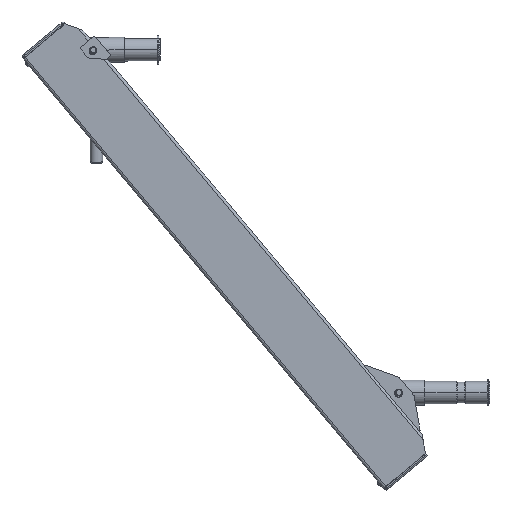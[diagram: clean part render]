
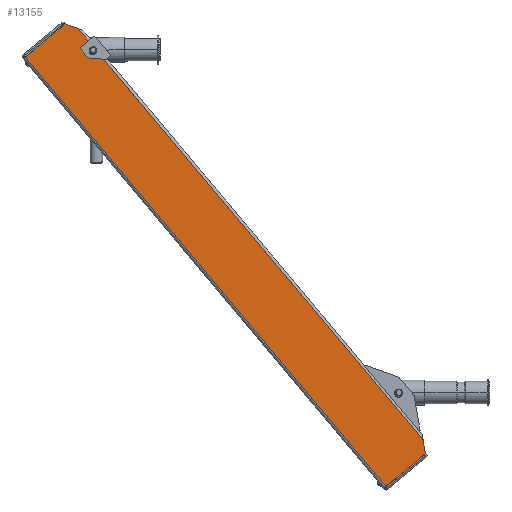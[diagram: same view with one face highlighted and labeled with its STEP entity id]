
A CAD part, left-side view. The second image highlights one B-rep face of the part: STEP entity #13155.
In plain terms, the highlighted planar face has unit normal (-1, 0, 0).
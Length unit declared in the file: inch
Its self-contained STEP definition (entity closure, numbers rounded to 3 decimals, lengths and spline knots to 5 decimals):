
#111 = CIRCLE ( 'NONE', #37386, 0.14063 ) ;
#399 = LINE ( 'NONE', #24057, #34628 ) ;
#415 = EDGE_CURVE ( 'NONE', #27012, #36600, #30924, .T. ) ;
#546 = DIRECTION ( 'NONE',  ( 0., 0., 1. ) ) ;
#809 = LINE ( 'NONE', #41498, #27001 ) ;
#1682 = CARTESIAN_POINT ( 'NONE',  ( 0., 0.185, 9.64062 ) ) ;
#2359 = DIRECTION ( 'NONE',  ( 0., 0., 1. ) ) ;
#3075 = CARTESIAN_POINT ( 'NONE',  ( 0., 0.1, -10.52369 ) ) ;
#3147 = LINE ( 'NONE', #19734, #10473 ) ;
#4107 = ORIENTED_EDGE ( 'NONE', *, *, #33657, .T. ) ;
#4394 = DIRECTION ( 'NONE',  ( 0., 0., -1. ) ) ;
#5242 = ORIENTED_EDGE ( 'NONE', *, *, #53019, .T. ) ;
#5952 = CARTESIAN_POINT ( 'NONE',  ( 0., -0.04803, 9.375 ) ) ;
#6007 = LINE ( 'NONE', #6286, #40725 ) ;
#6085 = ORIENTED_EDGE ( 'NONE', *, *, #33039, .F. ) ;
#6112 = CARTESIAN_POINT ( 'NONE',  ( 0., 0.185, 9.5 ) ) ;
#6232 = VECTOR ( 'NONE', #22784, 39.37008 ) ;
#6286 = CARTESIAN_POINT ( 'NONE',  ( 0., 0.375, 11. ) ) ;
#6518 = CARTESIAN_POINT ( 'NONE',  ( 0., -0.04803, 9.625 ) ) ;
#6832 = DIRECTION ( 'NONE',  ( 0., 0.5, -0.866 ) ) ;
#7044 = VERTEX_POINT ( 'NONE', #23500 ) ;
#7163 = VERTEX_POINT ( 'NONE', #38351 ) ;
#8352 = LINE ( 'NONE', #20865, #49531 ) ;
#9318 = VERTEX_POINT ( 'NONE', #42668 ) ;
#9906 = DIRECTION ( 'NONE',  ( -1., 0., 0. ) ) ;
#10473 = VECTOR ( 'NONE', #2359, 39.37008 ) ;
#10693 = ORIENTED_EDGE ( 'NONE', *, *, #40847, .F. ) ;
#10892 = LINE ( 'NONE', #27460, #34504 ) ;
#11310 = VERTEX_POINT ( 'NONE', #41318 ) ;
#11699 = ORIENTED_EDGE ( 'NONE', *, *, #23959, .F. ) ;
#11955 = VERTEX_POINT ( 'NONE', #37999 ) ;
#12783 = EDGE_CURVE ( 'NONE', #36600, #33723, #3147, .T. ) ;
#13155 = ADVANCED_FACE ( 'NONE', ( #22400 ), #13214, .T. ) ;
#13214 = PLANE ( 'NONE',  #20052 ) ;
#13615 = CARTESIAN_POINT ( 'NONE',  ( 0., 0.185, 9.5 ) ) ;
#14981 = CARTESIAN_POINT ( 'NONE',  ( 0., 0.1, 9.375 ) ) ;
#16290 = VERTEX_POINT ( 'NONE', #1682 ) ;
#16773 = CARTESIAN_POINT ( 'NONE',  ( 0., 0.185, 9.35937 ) ) ;
#19021 = EDGE_CURVE ( 'NONE', #7044, #36402, #47645, .T. ) ;
#19734 = CARTESIAN_POINT ( 'NONE',  ( 0., 0.1, -11. ) ) ;
#20052 = AXIS2_PLACEMENT_3D ( 'NONE', #38130, #9906, #29745 ) ;
#20865 = CARTESIAN_POINT ( 'NONE',  ( 0., 2.4, 11. ) ) ;
#21466 = VERTEX_POINT ( 'NONE', #3075 ) ;
#22016 = DIRECTION ( 'NONE',  ( 0., 0., -1. ) ) ;
#22400 = FACE_OUTER_BOUND ( 'NONE', #42211, .T. ) ;
#22784 = DIRECTION ( 'NONE',  ( 0., 1., 0. ) ) ;
#22804 = DIRECTION ( 'NONE',  ( 0., -1., 0. ) ) ;
#22984 = EDGE_CURVE ( 'NONE', #11310, #7163, #809, .T. ) ;
#23368 = EDGE_CURVE ( 'NONE', #31066, #7044, #47420, .T. ) ;
#23500 = CARTESIAN_POINT ( 'NONE',  ( 0., 0.12058, 9.375 ) ) ;
#23959 = EDGE_CURVE ( 'NONE', #9318, #11955, #8352, .T. ) ;
#24057 = CARTESIAN_POINT ( 'NONE',  ( 0., 2.4, -11. ) ) ;
#24077 = AXIS2_PLACEMENT_3D ( 'NONE', #13615, #46420, #4394 ) ;
#24339 = ORIENTED_EDGE ( 'NONE', *, *, #44586, .T. ) ;
#24844 = EDGE_CURVE ( 'NONE', #11310, #9318, #399, .T. ) ;
#27001 = VECTOR ( 'NONE', #41782, 39.37008 ) ;
#27012 = VERTEX_POINT ( 'NONE', #32574 ) ;
#27460 = CARTESIAN_POINT ( 'NONE',  ( 0., 0.375, -11. ) ) ;
#27606 = ORIENTED_EDGE ( 'NONE', *, *, #12783, .T. ) ;
#29399 = VECTOR ( 'NONE', #546, 39.37008 ) ;
#29745 = DIRECTION ( 'NONE',  ( 0., -1., 0. ) ) ;
#30129 = LINE ( 'NONE', #34441, #29399 ) ;
#30364 = VECTOR ( 'NONE', #22804, 39.37008 ) ;
#30675 = CARTESIAN_POINT ( 'NONE',  ( 0., 0.185, 9.5 ) ) ;
#30924 = LINE ( 'NONE', #6518, #30364 ) ;
#31066 = VERTEX_POINT ( 'NONE', #14981 ) ;
#31832 = ORIENTED_EDGE ( 'NONE', *, *, #23368, .T. ) ;
#32045 = ORIENTED_EDGE ( 'NONE', *, *, #415, .T. ) ;
#32574 = CARTESIAN_POINT ( 'NONE',  ( 0., 0.12058, 9.625 ) ) ;
#33039 = EDGE_CURVE ( 'NONE', #21466, #7163, #10892, .T. ) ;
#33657 = EDGE_CURVE ( 'NONE', #21466, #31066, #30129, .T. ) ;
#33723 = VERTEX_POINT ( 'NONE', #46654 ) ;
#34441 = CARTESIAN_POINT ( 'NONE',  ( 0., 0.1, -11. ) ) ;
#34504 = VECTOR ( 'NONE', #6832, 39.37008 ) ;
#34628 = VECTOR ( 'NONE', #36508, 39.37008 ) ;
#35262 = ORIENTED_EDGE ( 'NONE', *, *, #19021, .T. ) ;
#36402 = VERTEX_POINT ( 'NONE', #16773 ) ;
#36508 = DIRECTION ( 'NONE',  ( 0., 0., 1. ) ) ;
#36600 = VERTEX_POINT ( 'NONE', #41895 ) ;
#37386 = AXIS2_PLACEMENT_3D ( 'NONE', #30675, #39328, #22016 ) ;
#37999 = CARTESIAN_POINT ( 'NONE',  ( 0., 0.375, 11. ) ) ;
#38130 = CARTESIAN_POINT ( 'NONE',  ( 0., 2.4, -11. ) ) ;
#38351 = CARTESIAN_POINT ( 'NONE',  ( 0., 0.375, -11. ) ) ;
#39328 = DIRECTION ( 'NONE',  ( 1., 0., 0. ) ) ;
#40625 = DIRECTION ( 'NONE',  ( 0., -1., 0. ) ) ;
#40723 = AXIS2_PLACEMENT_3D ( 'NONE', #6112, #51124, #50853 ) ;
#40725 = VECTOR ( 'NONE', #52351, 39.37008 ) ;
#40847 = EDGE_CURVE ( 'NONE', #11955, #33723, #6007, .T. ) ;
#41318 = CARTESIAN_POINT ( 'NONE',  ( 0., 2.4, -11. ) ) ;
#41498 = CARTESIAN_POINT ( 'NONE',  ( 0., 2.4, -11. ) ) ;
#41782 = DIRECTION ( 'NONE',  ( 0., -1., 0. ) ) ;
#41895 = CARTESIAN_POINT ( 'NONE',  ( 0., 0.1, 9.625 ) ) ;
#42211 = EDGE_LOOP ( 'NONE', ( #31832, #35262, #24339, #5242, #32045, #27606, #10693, #11699, #52325, #50134, #6085, #4107 ) ) ;
#42668 = CARTESIAN_POINT ( 'NONE',  ( 0., 2.4, 11. ) ) ;
#44586 = EDGE_CURVE ( 'NONE', #36402, #16290, #111, .T. ) ;
#46420 = DIRECTION ( 'NONE',  ( 1., 0., 0. ) ) ;
#46654 = CARTESIAN_POINT ( 'NONE',  ( 0., 0.1, 10.52369 ) ) ;
#47420 = LINE ( 'NONE', #5952, #6232 ) ;
#47645 = CIRCLE ( 'NONE', #40723, 0.14063 ) ;
#49531 = VECTOR ( 'NONE', #40625, 39.37008 ) ;
#50134 = ORIENTED_EDGE ( 'NONE', *, *, #22984, .T. ) ;
#50853 = DIRECTION ( 'NONE',  ( 0., 0., -1. ) ) ;
#51124 = DIRECTION ( 'NONE',  ( 1., 0., 0. ) ) ;
#52325 = ORIENTED_EDGE ( 'NONE', *, *, #24844, .F. ) ;
#52351 = DIRECTION ( 'NONE',  ( 0., -0.5, -0.866 ) ) ;
#52623 = CIRCLE ( 'NONE', #24077, 0.14063 ) ;
#53019 = EDGE_CURVE ( 'NONE', #16290, #27012, #52623, .T. ) ;
